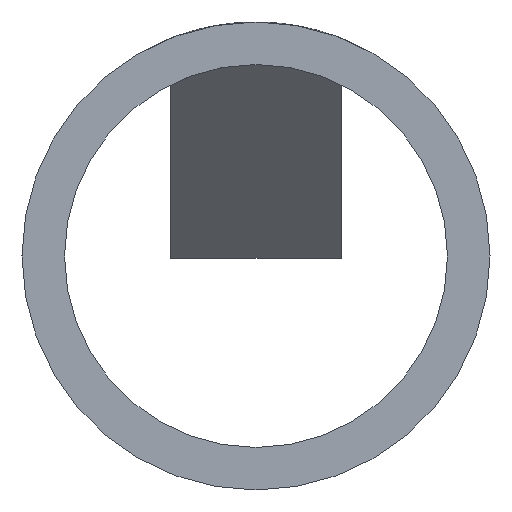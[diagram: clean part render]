
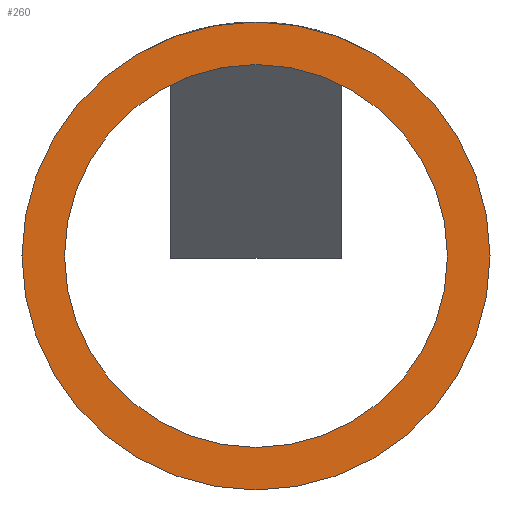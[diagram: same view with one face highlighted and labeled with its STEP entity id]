
A CAD part, front view. The second image highlights one B-rep face of the part: STEP entity #260.
In plain terms, the highlighted planar face has unit normal (0, -1, 0).
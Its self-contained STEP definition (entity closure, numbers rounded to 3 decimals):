
#33 = CIRCLE ( 'NONE', #192, 4.5 ) ;
#36 = CIRCLE ( 'NONE', #208, 4.5 ) ;
#37 = CIRCLE ( 'NONE', #189, 5.5 ) ;
#62 = EDGE_LOOP ( 'NONE', ( #111, #112 ) ) ;
#68 = EDGE_LOOP ( 'NONE', ( #114, #115 ) ) ;
#82 = CARTESIAN_POINT ( 'NONE',  ( 4.5, 0., 0. ) ) ;
#84 = CARTESIAN_POINT ( 'NONE',  ( -5.5, 0., 0. ) ) ;
#87 = CARTESIAN_POINT ( 'NONE',  ( -4.5, 0., 0. ) ) ;
#111 = ORIENTED_EDGE ( 'NONE', *, *, #164, .T. ) ;
#112 = ORIENTED_EDGE ( 'NONE', *, *, #198, .T. ) ;
#114 = ORIENTED_EDGE ( 'NONE', *, *, #165, .F. ) ;
#115 = ORIENTED_EDGE ( 'NONE', *, *, #167, .F. ) ;
#164 = EDGE_CURVE ( 'NONE', #426, #406, #37, .T. ) ;
#165 = EDGE_CURVE ( 'NONE', #409, #399, #36, .T. ) ;
#167 = EDGE_CURVE ( 'NONE', #399, #409, #33, .T. ) ;
#189 = AXIS2_PLACEMENT_3D ( 'NONE', #487, #486, #485 ) ;
#192 = AXIS2_PLACEMENT_3D ( 'NONE', #475, #474, #473 ) ;
#198 = EDGE_CURVE ( 'NONE', #406, #426, #309, .T. ) ;
#208 = AXIS2_PLACEMENT_3D ( 'NONE', #484, #482, #480 ) ;
#212 = AXIS2_PLACEMENT_3D ( 'NONE', #411, #404, #403 ) ;
#220 = AXIS2_PLACEMENT_3D ( 'NONE', #360, #358, #356 ) ;
#246 = CARTESIAN_POINT ( 'NONE',  ( 5.5, 0., 0. ) ) ;
#260 = ADVANCED_FACE ( 'NONE', ( #292, #284 ), #359, .T. ) ;
#284 = FACE_BOUND ( 'NONE', #68, .T. ) ;
#292 = FACE_OUTER_BOUND ( 'NONE', #62, .T. ) ;
#309 = CIRCLE ( 'NONE', #212, 5.5 ) ;
#356 = DIRECTION ( 'NONE',  ( -1., 0., 0. ) ) ;
#358 = DIRECTION ( 'NONE',  ( 0., -1., 0. ) ) ;
#359 = PLANE ( 'NONE',  #220 ) ;
#360 = CARTESIAN_POINT ( 'NONE',  ( 0., 0., 0. ) ) ;
#399 = VERTEX_POINT ( 'NONE', #87 ) ;
#403 = DIRECTION ( 'NONE',  ( -1., 0., 0. ) ) ;
#404 = DIRECTION ( 'NONE',  ( 0., -1., 0. ) ) ;
#406 = VERTEX_POINT ( 'NONE', #84 ) ;
#409 = VERTEX_POINT ( 'NONE', #82 ) ;
#411 = CARTESIAN_POINT ( 'NONE',  ( 0., 0., 0. ) ) ;
#426 = VERTEX_POINT ( 'NONE', #246 ) ;
#473 = DIRECTION ( 'NONE',  ( -1., 0., 0. ) ) ;
#474 = DIRECTION ( 'NONE',  ( 0., -1., 0. ) ) ;
#475 = CARTESIAN_POINT ( 'NONE',  ( 0., 0., 0. ) ) ;
#480 = DIRECTION ( 'NONE',  ( -1., 0., 0. ) ) ;
#482 = DIRECTION ( 'NONE',  ( 0., -1., 0. ) ) ;
#484 = CARTESIAN_POINT ( 'NONE',  ( 0., 0., 0. ) ) ;
#485 = DIRECTION ( 'NONE',  ( -1., 0., 0. ) ) ;
#486 = DIRECTION ( 'NONE',  ( 0., -1., 0. ) ) ;
#487 = CARTESIAN_POINT ( 'NONE',  ( 0., 0., 0. ) ) ;
